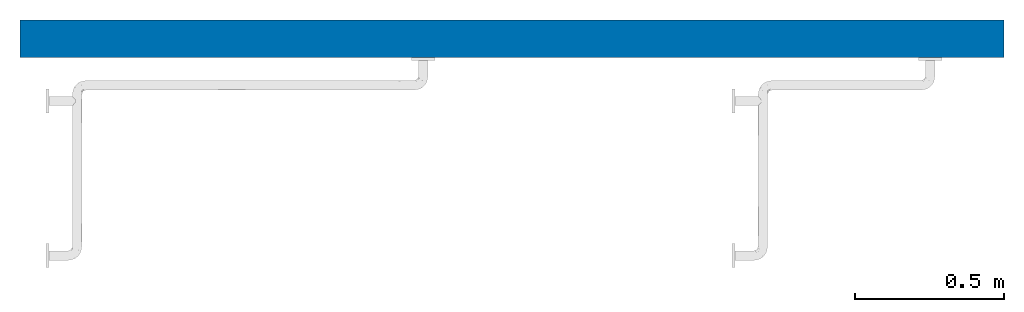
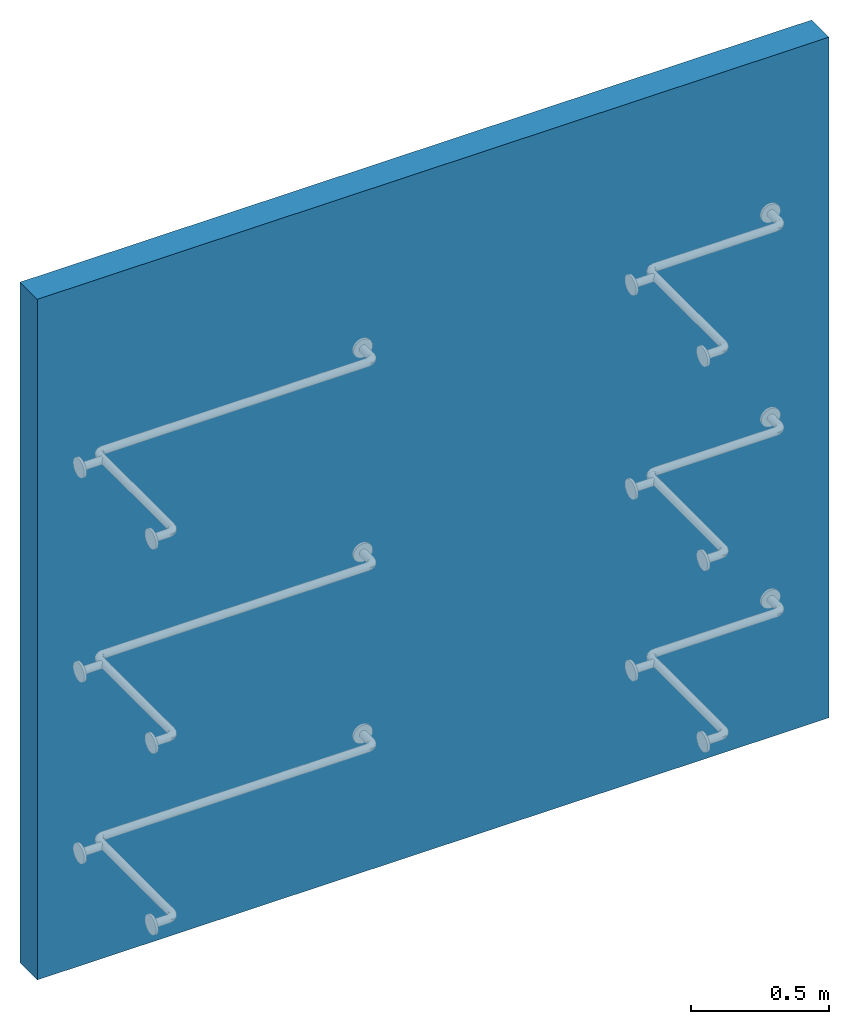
# One storey, incomplete: 1 wall.
"""IFC2X3 building model written with IfcOpenShell, lengths in millimetres."""

from ifc_helpers import new_model, entity, si_unit, converted_unit, derived_unit, direction, frame, frame_2d, origin, place, context, subcontext, project, spatial, rectangle, extrude, material, layer, layer_set, layer_usage, type_object, element, save


model = new_model("IFC2X3")

# Units and contexts
model_context = context("Model", 3, precision=0.01, world=origin(), true_north=direction((6.12303176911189e-17, 1.0)))
body_context = subcontext(model_context, "Body", "Model", "MODEL_VIEW")
ifc_project = project(units=[si_unit("LENGTHUNIT", "METRE", prefix="MILLI"), si_unit("AREAUNIT", "SQUARE_METRE"), si_unit("VOLUMEUNIT", "CUBIC_METRE"), converted_unit("PLANEANGLEUNIT", "DEGREE", entity("IfcRatioMeasure", 0.0174532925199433), si_unit("PLANEANGLEUNIT", "RADIAN"), dimensions=[0, 0, 0, 0, 0, 0, 0]), si_unit("MASSUNIT", "GRAM", prefix="KILO"), si_unit("TIMEUNIT", "SECOND"), si_unit("FREQUENCYUNIT", "HERTZ"), si_unit("THERMODYNAMICTEMPERATUREUNIT", "DEGREE_CELSIUS"), derived_unit("THERMALTRANSMITTANCEUNIT", [(si_unit("MASSUNIT", "GRAM", prefix="KILO"), 1), (si_unit("THERMODYNAMICTEMPERATUREUNIT", "KELVIN"), -1), (si_unit("TIMEUNIT", "SECOND"), -3)]), derived_unit("VOLUMETRICFLOWRATEUNIT", [(si_unit("LENGTHUNIT", "METRE"), 3), (si_unit("TIMEUNIT", "SECOND"), -1)]), si_unit("ELECTRICCURRENTUNIT", "AMPERE"), si_unit("ELECTRICVOLTAGEUNIT", "VOLT"), si_unit("POWERUNIT", "WATT"), si_unit("FORCEUNIT", "NEWTON", prefix="KILO"), si_unit("ILLUMINANCEUNIT", "LUX"), si_unit("LUMINOUSFLUXUNIT", "LUMEN"), si_unit("LUMINOUSINTENSITYUNIT", "CANDELA"), derived_unit("USERDEFINED", [(si_unit("MASSUNIT", "GRAM", prefix="KILO"), -1), (si_unit("LENGTHUNIT", "METRE"), -2), (si_unit("TIMEUNIT", "SECOND"), 3), (si_unit("LUMINOUSFLUXUNIT", "LUMEN"), 1)]), derived_unit("LINEARVELOCITYUNIT", [(si_unit("LENGTHUNIT", "METRE"), 1), (si_unit("TIMEUNIT", "SECOND"), -1)]), si_unit("PRESSUREUNIT", "PASCAL"), derived_unit("USERDEFINED", [(si_unit("LENGTHUNIT", "METRE"), -2), (si_unit("MASSUNIT", "GRAM", prefix="KILO"), 1), (si_unit("TIMEUNIT", "SECOND"), -2)])], contexts=[model_context])

# Site, building, storey
site_placement = place(None, origin())
site = spatial("IfcSite", under=ifc_project, at=site_placement, Name="Default", CompositionType="ELEMENT")
building_placement = place(site_placement, origin())
building = spatial("IfcBuilding", under=site, at=building_placement, CompositionType="ELEMENT")
storey_placement = place(building_placement, origin())
storey = spatial("IfcBuildingStorey", under=building, at=storey_placement, Name="Level 0", CompositionType="ELEMENT", Elevation=0.0)

# Wall
ifc_material_1 = material(Name="Plaster")
ifc_layer_1 = layer(ifc_material_1, 12.5)
ifc_material_2 = material(Name="Concrete Masonry Units")
ifc_layer_2 = layer(ifc_material_2, 100.0)
ifc_layer_3 = layer(ifc_material_1, 12.5)
ifc_layer_set = layer_set([ifc_layer_1, ifc_layer_2, ifc_layer_3], Name="Basic Wall:Wall-Int_12P-100Blk-12P")
ifc_layer_usage = layer_usage(ifc_layer_set, "AXIS2", "NEGATIVE", 62.5)
wall_type = type_object("IfcWallType", Name="Basic Wall:Wall-Int_12P-100Blk-12P", PredefinedType="STANDARD", material=ifc_layer_set)
wall_placement = place(storey_placement, frame((-2286.76268698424, 659.176402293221, 0.0)))
element("IfcWallStandardCase", 1, at=wall_placement, inside=storey, type_object=wall_type, material=ifc_layer_usage, Name="Basic Wall:Wall-Int_12P-100Blk-12P", ObjectType="Basic Wall:Wall-Int_12P-100Blk-12P", context=body_context, shape_type="SweptSolid", body=[
    extrude(rectangle(XDim=3300.0, YDim=125.0, at=frame_2d((1650.0, -1.4210854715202e-14), x_axis=(-1.0, 0.0))), origin(), (0.0, 0.0, 1.0), 3000.0),
])

save(model, "model.ifc")
